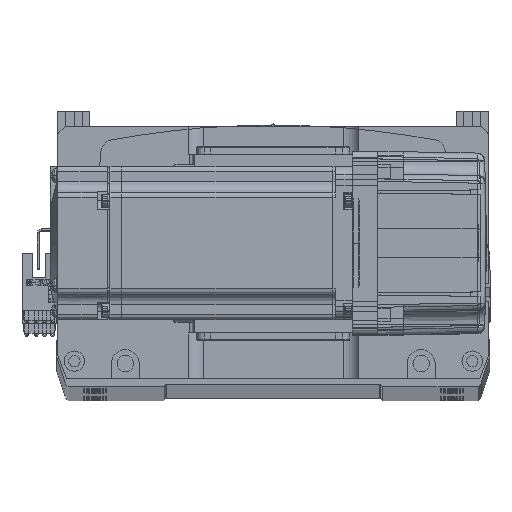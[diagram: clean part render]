
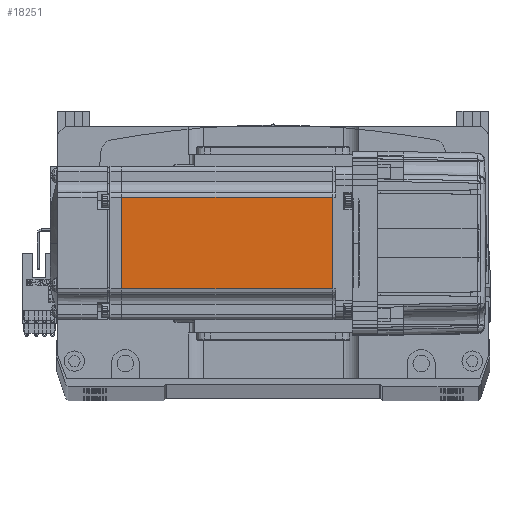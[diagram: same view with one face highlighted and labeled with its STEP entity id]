
A CAD part, top view. The second image highlights one B-rep face of the part: STEP entity #18251.
In plain terms, the highlighted planar face has unit normal (0, 0, 1).
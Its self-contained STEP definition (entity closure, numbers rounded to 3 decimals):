
#880 = LINE ( 'NONE', #64330, #41539 ) ;
#1281 = EDGE_CURVE ( 'NONE', #22411, #47751, #16870, .T. ) ;
#3893 = CARTESIAN_POINT ( 'NONE',  ( -6.5, 18., 30. ) ) ;
#5512 = ORIENTED_EDGE ( 'NONE', *, *, #20926, .F. ) ;
#5600 = CARTESIAN_POINT ( 'NONE',  ( -7.75, -18., 30. ) ) ;
#6114 = DIRECTION ( 'NONE',  ( 0., -1., 0. ) ) ;
#8963 = DIRECTION ( 'NONE',  ( 0., -1., 0. ) ) ;
#11231 = ORIENTED_EDGE ( 'NONE', *, *, #20917, .F. ) ;
#11276 = LINE ( 'NONE', #22506, #71038 ) ;
#11912 = CARTESIAN_POINT ( 'NONE',  ( -7.75, 0., 30. ) ) ;
#12154 = LINE ( 'NONE', #11912, #64944 ) ;
#12717 = PLANE ( 'NONE',  #34955 ) ;
#16870 = LINE ( 'NONE', #3893, #66244 ) ;
#18251 = ADVANCED_FACE ( 'NONE', ( #43489 ), #12717, .T. ) ;
#18490 = DIRECTION ( 'NONE',  ( 1., 0., 0. ) ) ;
#20917 = EDGE_CURVE ( 'NONE', #53213, #68282, #11276, .T. ) ;
#20926 = EDGE_CURVE ( 'NONE', #22411, #53213, #12154, .T. ) ;
#22218 = ORIENTED_EDGE ( 'NONE', *, *, #50835, .T. ) ;
#22411 = VERTEX_POINT ( 'NONE', #28304 ) ;
#22506 = CARTESIAN_POINT ( 'NONE',  ( -6.5, -18., 30. ) ) ;
#27057 = CARTESIAN_POINT ( 'NONE',  ( -90.45, -18., 30. ) ) ;
#28304 = CARTESIAN_POINT ( 'NONE',  ( -7.75, 18., 30. ) ) ;
#34955 = AXIS2_PLACEMENT_3D ( 'NONE', #69069, #63286, #18490 ) ;
#41539 = VECTOR ( 'NONE', #8963, 1000. ) ;
#42326 = DIRECTION ( 'NONE',  ( -1., 0., 0. ) ) ;
#43489 = FACE_OUTER_BOUND ( 'NONE', #45308, .T. ) ;
#44581 = CARTESIAN_POINT ( 'NONE',  ( -90.45, 18., 30. ) ) ;
#45308 = EDGE_LOOP ( 'NONE', ( #5512, #69513, #22218, #11231 ) ) ;
#47751 = VERTEX_POINT ( 'NONE', #44581 ) ;
#50835 = EDGE_CURVE ( 'NONE', #47751, #68282, #880, .T. ) ;
#53213 = VERTEX_POINT ( 'NONE', #5600 ) ;
#61526 = DIRECTION ( 'NONE',  ( -1., 0., 0. ) ) ;
#63286 = DIRECTION ( 'NONE',  ( 0., 0., 1. ) ) ;
#64330 = CARTESIAN_POINT ( 'NONE',  ( -90.45, 0., 30. ) ) ;
#64944 = VECTOR ( 'NONE', #6114, 1000. ) ;
#66244 = VECTOR ( 'NONE', #42326, 1000. ) ;
#68282 = VERTEX_POINT ( 'NONE', #27057 ) ;
#69069 = CARTESIAN_POINT ( 'NONE',  ( -6.5, -25., 30. ) ) ;
#69513 = ORIENTED_EDGE ( 'NONE', *, *, #1281, .T. ) ;
#71038 = VECTOR ( 'NONE', #61526, 1000. ) ;
